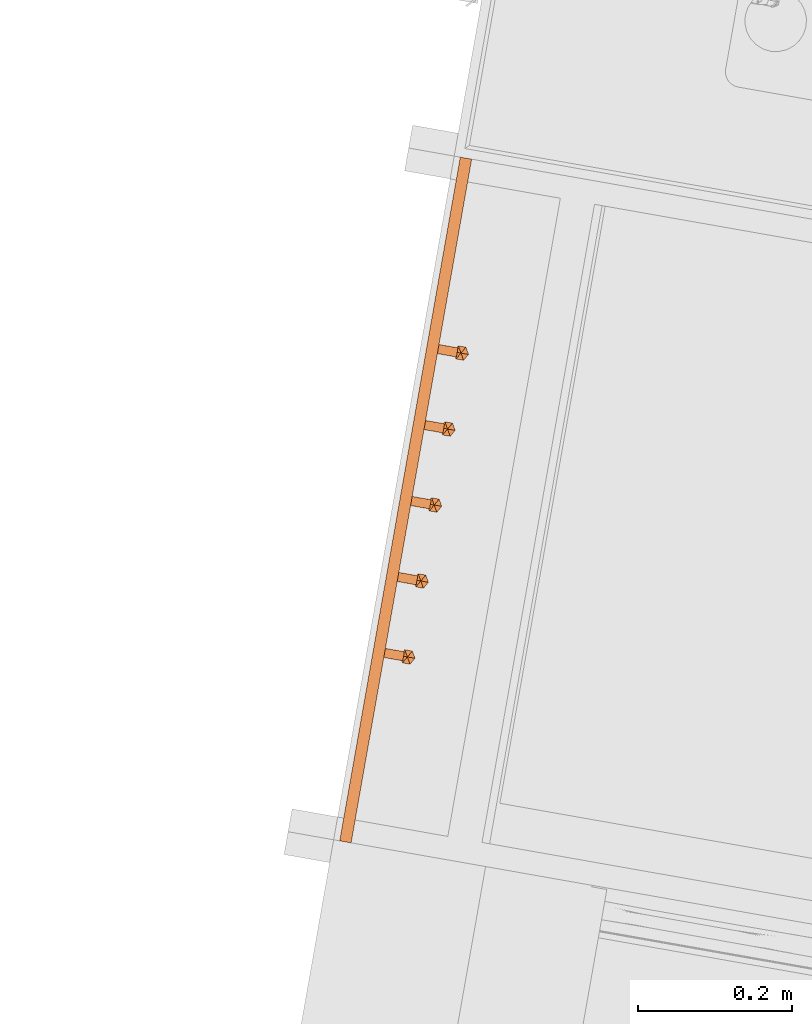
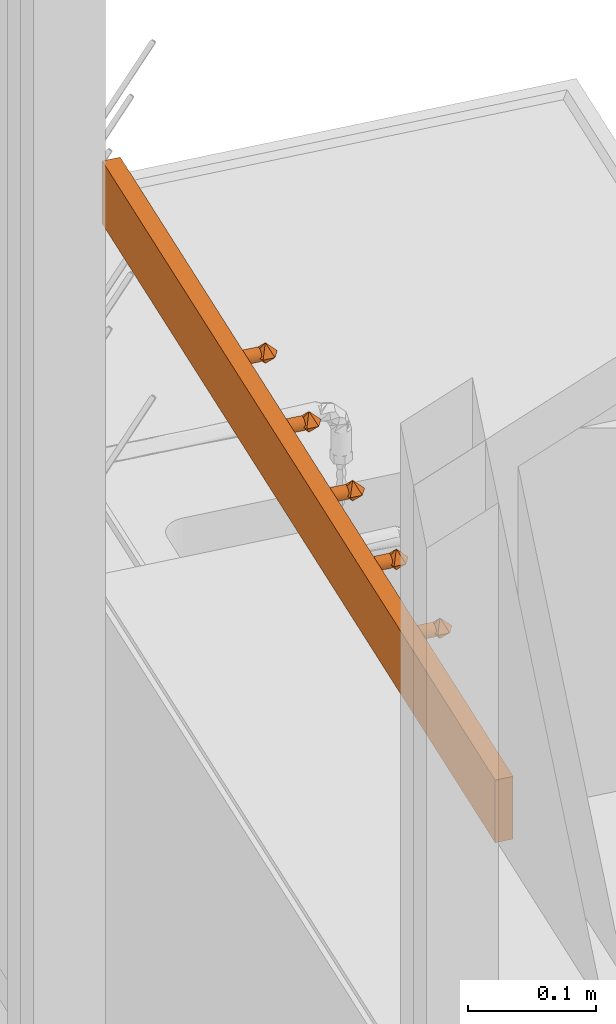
# One storey, part 43 of 43: 1 proxy.
"""IFC2X3 building model written with IfcOpenShell, lengths in metres."""

from ifc_helpers import new_model, entity, si_unit, converted_unit, derived_unit, direction, frame, origin, place, context, subcontext, project, spatial, faceted_brep, source, transform, mapped, material, type_object, type_shapes, element, save


model = new_model("IFC2X3")

# Units and contexts
model_context = context("Model", 3, precision=1e-05, world=origin(), true_north=direction((6.12303176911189e-17, 1.0)))
body_context = subcontext(model_context, "Body", "Model", "MODEL_VIEW")
ifc_project = project(units=[si_unit("LENGTHUNIT", "METRE"), si_unit("AREAUNIT", "SQUARE_METRE"), si_unit("VOLUMEUNIT", "CUBIC_METRE"), converted_unit("PLANEANGLEUNIT", "DEGREE", entity("IfcRatioMeasure", 0.0174532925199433), si_unit("PLANEANGLEUNIT", "RADIAN"), dimensions=[0, 0, 0, 0, 0, 0, 0]), si_unit("MASSUNIT", "GRAM", prefix="KILO"), derived_unit("MASSDENSITYUNIT", [(si_unit("MASSUNIT", "GRAM", prefix="KILO"), 1), (si_unit("LENGTHUNIT", "METRE"), -3)]), derived_unit("MOMENTOFINERTIAUNIT", [(si_unit("LENGTHUNIT", "METRE"), 4)]), si_unit("TIMEUNIT", "SECOND"), si_unit("FREQUENCYUNIT", "HERTZ"), si_unit("THERMODYNAMICTEMPERATUREUNIT", "DEGREE_CELSIUS"), derived_unit("THERMALTRANSMITTANCEUNIT", [(si_unit("MASSUNIT", "GRAM", prefix="KILO"), 1), (si_unit("THERMODYNAMICTEMPERATUREUNIT", "KELVIN"), -1), (si_unit("TIMEUNIT", "SECOND"), -3)]), derived_unit("VOLUMETRICFLOWRATEUNIT", [(si_unit("LENGTHUNIT", "METRE"), 3), (si_unit("TIMEUNIT", "SECOND"), -1)]), si_unit("ELECTRICCURRENTUNIT", "AMPERE"), si_unit("ELECTRICVOLTAGEUNIT", "VOLT"), si_unit("POWERUNIT", "WATT"), si_unit("FORCEUNIT", "NEWTON", prefix="KILO"), si_unit("ILLUMINANCEUNIT", "LUX"), si_unit("LUMINOUSFLUXUNIT", "LUMEN"), si_unit("LUMINOUSINTENSITYUNIT", "CANDELA"), derived_unit("USERDEFINED", [(si_unit("MASSUNIT", "GRAM", prefix="KILO"), -1), (si_unit("LENGTHUNIT", "METRE"), -2), (si_unit("TIMEUNIT", "SECOND"), 3), (si_unit("LUMINOUSFLUXUNIT", "LUMEN"), 1)]), derived_unit("LINEARVELOCITYUNIT", [(si_unit("LENGTHUNIT", "METRE"), 1), (si_unit("TIMEUNIT", "SECOND"), -1)]), si_unit("PRESSUREUNIT", "PASCAL"), derived_unit("USERDEFINED", [(si_unit("LENGTHUNIT", "METRE"), -2), (si_unit("MASSUNIT", "GRAM", prefix="KILO"), 1), (si_unit("TIMEUNIT", "SECOND"), -2)]), derived_unit("LINEARFORCEUNIT", [(si_unit("MASSUNIT", "GRAM", prefix="KILO"), 1), (si_unit("LENGTHUNIT", "METRE"), 1), (si_unit("TIMEUNIT", "SECOND"), -2), (si_unit("LENGTHUNIT", "METRE"), -1)]), derived_unit("PLANARFORCEUNIT", [(si_unit("MASSUNIT", "GRAM", prefix="KILO"), 1), (si_unit("LENGTHUNIT", "METRE"), 1), (si_unit("TIMEUNIT", "SECOND"), -2), (si_unit("LENGTHUNIT", "METRE"), -2)])], contexts=[model_context])

# Site, building, storey
site_placement = place(None, origin())
site = spatial("IfcSite", under=ifc_project, at=site_placement, Name="Default", CompositionType="ELEMENT")
building_placement = place(site_placement, origin())
building = spatial("IfcBuilding", under=site, at=building_placement, CompositionType="ELEMENT")
storey_placement = place(building_placement, frame((0.0, 0.0, 3.0)))
storey = spatial("IfcBuildingStorey", under=building, at=storey_placement, Name="01 OG", CompositionType="ELEMENT", Elevation=3.0)

# Proxy
ifc_material = material(Name="dh_Weiß")
building_element_proxy_type = type_object("IfcBuildingElementProxyType", Name="dh_Kittelleiste:K600", PredefinedType="NOTDEFINED", material=ifc_material)
shared_shape = source(origin(), body_context, "Body", "Brep", [
    faceted_brep([(0.241339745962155, 0.0065952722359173, 0.0299999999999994), (0.249999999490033, 0.0115952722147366, 0.0199999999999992), (0.25, 0.00159527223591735, 0.0299999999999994), (0.241339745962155, 0.0165952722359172, 0.0299999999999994), (0.25, 0.0215952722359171, 0.0299999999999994), (0.258660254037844, 0.0065952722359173, 0.0299999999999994), (0.258660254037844, 0.0165952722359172, 0.0299999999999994), (0.250000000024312, 0.0115952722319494, 0.0399999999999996)], [[[0, 1, 2]], [[1, 0, 3]], [[1, 3, 4]], [[5, 1, 6]], [[1, 4, 6]], [[2, 1, 5]], [[5, 7, 2]], [[7, 5, 6]], [[7, 6, 4]], [[0, 7, 3]], [[7, 4, 3]], [[2, 7, 0]]]),
    faceted_brep([(0.251552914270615, 0.016605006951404, 0.0242044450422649), (0.253, 0.016605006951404, 0.0248038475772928), (0.254242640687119, 0.016605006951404, 0.0257573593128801), (0.255196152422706, 0.016605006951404, 0.0269999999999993), (0.255795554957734, 0.016605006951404, 0.0284470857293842), (0.256, 0.016605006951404, 0.0299999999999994), (0.255795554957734, 0.016605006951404, 0.0315529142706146), (0.255196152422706, 0.016605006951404, 0.0329999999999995), (0.254242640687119, 0.016605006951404, 0.0342426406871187), (0.253, 0.016605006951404, 0.035196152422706), (0.251552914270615, 0.016605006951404, 0.0357955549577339), (0.25, 0.016605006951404, 0.0359999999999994), (0.248447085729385, 0.016605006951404, 0.0357955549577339), (0.247, 0.016605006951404, 0.035196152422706), (0.24575735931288, 0.016605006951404, 0.0342426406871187), (0.244803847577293, 0.016605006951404, 0.0329999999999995), (0.244204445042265, 0.016605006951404, 0.0315529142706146), (0.244, 0.016605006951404, 0.0299999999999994), (0.244204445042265, 0.016605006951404, 0.0284470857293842), (0.244803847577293, 0.016605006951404, 0.0269999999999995), (0.24575735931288, 0.016605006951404, 0.0257573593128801), (0.247, 0.016605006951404, 0.0248038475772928), (0.248447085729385, 0.016605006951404, 0.0242044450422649), (0.25, 0.016605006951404, 0.0239999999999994), (0.251552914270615, 0.0416050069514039, 0.0357955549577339), (0.253, 0.0416050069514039, 0.035196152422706), (0.254242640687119, 0.0416050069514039, 0.0342426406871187), (0.255196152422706, 0.0416050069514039, 0.0329999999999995), (0.255795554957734, 0.0416050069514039, 0.0315529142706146), (0.256, 0.0416050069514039, 0.0299999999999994), (0.255795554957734, 0.0416050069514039, 0.0284470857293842), (0.255196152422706, 0.0416050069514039, 0.0269999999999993), (0.254242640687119, 0.0416050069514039, 0.0257573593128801), (0.253, 0.0416050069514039, 0.0248038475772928), (0.251552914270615, 0.0416050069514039, 0.0242044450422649), (0.25, 0.0416050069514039, 0.0239999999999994), (0.248447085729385, 0.0416050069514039, 0.0242044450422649), (0.247, 0.0416050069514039, 0.0248038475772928), (0.24575735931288, 0.0416050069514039, 0.0257573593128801), (0.244803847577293, 0.0416050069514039, 0.0269999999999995), (0.244204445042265, 0.0416050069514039, 0.0284470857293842), (0.244, 0.0416050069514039, 0.0299999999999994), (0.244204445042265, 0.0416050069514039, 0.0315529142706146), (0.244803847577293, 0.0416050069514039, 0.0329999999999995), (0.24575735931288, 0.0416050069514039, 0.0342426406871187), (0.247, 0.0416050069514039, 0.035196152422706), (0.248447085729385, 0.0416050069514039, 0.0357955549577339), (0.25, 0.0416050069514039, 0.0359999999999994)], [[[0, 1, 2, 3, 4, 5, 6, 7, 8, 9, 10, 11, 12, 13, 14, 15, 16, 17, 18, 19, 20, 21, 22, 23]], [[24, 25, 26, 27, 28, 29, 30, 31, 32, 33, 34, 35, 36, 37, 38, 39, 40, 41, 42, 43, 44, 45, 46, 47]], [[40, 18, 17, 41]], [[39, 19, 18, 40]], [[21, 20, 38, 37]], [[39, 38, 20, 19]], [[22, 21, 37, 36]], [[23, 22, 36, 35]], [[34, 0, 23, 35]], [[33, 1, 0, 34]], [[3, 2, 32, 31]], [[33, 32, 2, 1]], [[4, 3, 31, 30]], [[5, 4, 30, 29]], [[28, 6, 5, 29]], [[27, 7, 6, 28]], [[9, 8, 26, 25]], [[27, 26, 8, 7]], [[10, 9, 25, 24]], [[11, 10, 24, 47]], [[46, 12, 11, 47]], [[45, 13, 12, 46]], [[15, 14, 44, 43]], [[45, 44, 14, 13]], [[16, 15, 43, 42]], [[17, 16, 42, 41]]]),
    faceted_brep([(0.441339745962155, 0.00659527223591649, 0.0299999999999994), (0.449999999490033, 0.0115952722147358, 0.0199999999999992), (0.45, 0.00159527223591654, 0.0299999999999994), (0.441339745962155, 0.0165952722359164, 0.0299999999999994), (0.45, 0.0215952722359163, 0.0299999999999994), (0.458660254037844, 0.00659527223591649, 0.0299999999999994), (0.458660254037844, 0.0165952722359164, 0.0299999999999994), (0.450000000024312, 0.0115952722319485, 0.0399999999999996)], [[[0, 1, 2]], [[1, 0, 3]], [[1, 3, 4]], [[5, 1, 6]], [[1, 4, 6]], [[2, 1, 5]], [[5, 7, 2]], [[7, 5, 6]], [[7, 6, 4]], [[0, 7, 3]], [[7, 4, 3]], [[2, 7, 0]]]),
    faceted_brep([(0.451552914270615, 0.0166050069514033, 0.0242044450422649), (0.453, 0.0166050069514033, 0.0248038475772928), (0.454242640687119, 0.0166050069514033, 0.0257573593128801), (0.455196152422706, 0.0166050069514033, 0.0269999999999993), (0.455795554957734, 0.0166050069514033, 0.0284470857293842), (0.456, 0.0166050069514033, 0.0299999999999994), (0.455795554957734, 0.0166050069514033, 0.0315529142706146), (0.455196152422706, 0.0166050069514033, 0.0329999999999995), (0.454242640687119, 0.0166050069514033, 0.0342426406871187), (0.453, 0.0166050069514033, 0.035196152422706), (0.451552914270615, 0.0166050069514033, 0.0357955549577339), (0.45, 0.0166050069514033, 0.0359999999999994), (0.448447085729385, 0.0166050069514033, 0.0357955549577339), (0.447, 0.0166050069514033, 0.035196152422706), (0.445757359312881, 0.0166050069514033, 0.0342426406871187), (0.444803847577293, 0.0166050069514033, 0.0329999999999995), (0.444204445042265, 0.0166050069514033, 0.0315529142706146), (0.444, 0.0166050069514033, 0.0299999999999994), (0.444204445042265, 0.0166050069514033, 0.0284470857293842), (0.444803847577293, 0.0166050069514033, 0.0269999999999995), (0.44575735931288, 0.0166050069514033, 0.0257573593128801), (0.447, 0.0166050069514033, 0.0248038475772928), (0.448447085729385, 0.0166050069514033, 0.0242044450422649), (0.45, 0.0166050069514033, 0.0239999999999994), (0.451552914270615, 0.0416050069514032, 0.0357955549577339), (0.453, 0.0416050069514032, 0.035196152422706), (0.454242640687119, 0.0416050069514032, 0.0342426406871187), (0.455196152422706, 0.0416050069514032, 0.0329999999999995), (0.455795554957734, 0.0416050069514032, 0.0315529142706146), (0.456, 0.0416050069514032, 0.0299999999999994), (0.455795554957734, 0.0416050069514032, 0.0284470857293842), (0.455196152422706, 0.0416050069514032, 0.0269999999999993), (0.454242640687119, 0.0416050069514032, 0.0257573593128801), (0.453, 0.0416050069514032, 0.0248038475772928), (0.451552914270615, 0.0416050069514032, 0.0242044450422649), (0.45, 0.0416050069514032, 0.0239999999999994), (0.448447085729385, 0.0416050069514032, 0.0242044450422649), (0.447, 0.0416050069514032, 0.0248038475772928), (0.44575735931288, 0.0416050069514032, 0.0257573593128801), (0.444803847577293, 0.0416050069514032, 0.0269999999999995), (0.444204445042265, 0.0416050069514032, 0.0284470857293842), (0.444, 0.0416050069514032, 0.0299999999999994), (0.444204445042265, 0.0416050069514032, 0.0315529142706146), (0.444803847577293, 0.0416050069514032, 0.0329999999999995), (0.445757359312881, 0.0416050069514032, 0.0342426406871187), (0.447, 0.0416050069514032, 0.035196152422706), (0.448447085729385, 0.0416050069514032, 0.0357955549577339), (0.45, 0.0416050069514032, 0.0359999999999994)], [[[0, 1, 2, 3, 4, 5, 6, 7, 8, 9, 10, 11, 12, 13, 14, 15, 16, 17, 18, 19, 20, 21, 22, 23]], [[24, 25, 26, 27, 28, 29, 30, 31, 32, 33, 34, 35, 36, 37, 38, 39, 40, 41, 42, 43, 44, 45, 46, 47]], [[40, 18, 17, 41]], [[39, 19, 18, 40]], [[21, 20, 38, 37]], [[39, 38, 20, 19]], [[22, 21, 37, 36]], [[23, 22, 36, 35]], [[34, 0, 23, 35]], [[33, 1, 0, 34]], [[3, 2, 32, 31]], [[33, 32, 2, 1]], [[4, 3, 31, 30]], [[5, 4, 30, 29]], [[28, 6, 5, 29]], [[27, 7, 6, 28]], [[9, 8, 26, 25]], [[27, 26, 8, 7]], [[10, 9, 25, 24]], [[11, 10, 24, 47]], [[46, 12, 11, 47]], [[45, 13, 12, 46]], [[15, 14, 44, 43]], [[45, 44, 14, 13]], [[16, 15, 43, 42]], [[17, 16, 42, 41]]]),
    faceted_brep([(0.341339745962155, 0.00659527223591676, 0.0299999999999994), (0.349999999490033, 0.0115952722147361, 0.0199999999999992), (0.35, 0.00159527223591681, 0.0299999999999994), (0.341339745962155, 0.0165952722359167, 0.0299999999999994), (0.35, 0.0215952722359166, 0.0299999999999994), (0.358660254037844, 0.00659527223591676, 0.0299999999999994), (0.358660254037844, 0.0165952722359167, 0.0299999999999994), (0.350000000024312, 0.0115952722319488, 0.0399999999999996)], [[[0, 1, 2]], [[1, 0, 3]], [[1, 3, 4]], [[5, 1, 6]], [[1, 4, 6]], [[2, 1, 5]], [[5, 7, 2]], [[7, 5, 6]], [[7, 6, 4]], [[0, 7, 3]], [[7, 4, 3]], [[2, 7, 0]]]),
    faceted_brep([(0.351552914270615, 0.0166050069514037, 0.0242044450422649), (0.353, 0.0166050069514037, 0.0248038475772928), (0.354242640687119, 0.0166050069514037, 0.0257573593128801), (0.355196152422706, 0.0166050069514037, 0.0269999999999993), (0.355795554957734, 0.0166050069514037, 0.0284470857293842), (0.356, 0.0166050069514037, 0.0299999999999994), (0.355795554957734, 0.0166050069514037, 0.0315529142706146), (0.355196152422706, 0.0166050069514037, 0.0329999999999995), (0.354242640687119, 0.0166050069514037, 0.0342426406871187), (0.353, 0.0166050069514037, 0.035196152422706), (0.351552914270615, 0.0166050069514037, 0.0357955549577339), (0.35, 0.0166050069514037, 0.0359999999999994), (0.348447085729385, 0.0166050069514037, 0.0357955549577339), (0.347, 0.0166050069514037, 0.035196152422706), (0.345757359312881, 0.0166050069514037, 0.0342426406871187), (0.344803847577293, 0.0166050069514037, 0.0329999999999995), (0.344204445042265, 0.0166050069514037, 0.0315529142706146), (0.344, 0.0166050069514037, 0.0299999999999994), (0.344204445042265, 0.0166050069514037, 0.0284470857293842), (0.344803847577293, 0.0166050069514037, 0.0269999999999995), (0.34575735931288, 0.0166050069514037, 0.0257573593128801), (0.347, 0.0166050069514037, 0.0248038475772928), (0.348447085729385, 0.0166050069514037, 0.0242044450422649), (0.35, 0.0166050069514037, 0.0239999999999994), (0.351552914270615, 0.0416050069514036, 0.0357955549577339), (0.353, 0.0416050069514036, 0.035196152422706), (0.354242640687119, 0.0416050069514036, 0.0342426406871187), (0.355196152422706, 0.0416050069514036, 0.0329999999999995), (0.355795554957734, 0.0416050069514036, 0.0315529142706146), (0.356, 0.0416050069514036, 0.0299999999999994), (0.355795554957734, 0.0416050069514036, 0.0284470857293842), (0.355196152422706, 0.0416050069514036, 0.0269999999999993), (0.354242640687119, 0.0416050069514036, 0.0257573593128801), (0.353, 0.0416050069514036, 0.0248038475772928), (0.351552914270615, 0.0416050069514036, 0.0242044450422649), (0.35, 0.0416050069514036, 0.0239999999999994), (0.348447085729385, 0.0416050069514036, 0.0242044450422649), (0.347, 0.0416050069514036, 0.0248038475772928), (0.34575735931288, 0.0416050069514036, 0.0257573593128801), (0.344803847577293, 0.0416050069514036, 0.0269999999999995), (0.344204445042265, 0.0416050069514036, 0.0284470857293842), (0.344, 0.0416050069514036, 0.0299999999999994), (0.344204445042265, 0.0416050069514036, 0.0315529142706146), (0.344803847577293, 0.0416050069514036, 0.0329999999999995), (0.345757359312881, 0.0416050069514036, 0.0342426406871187), (0.347, 0.0416050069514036, 0.035196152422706), (0.348447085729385, 0.0416050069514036, 0.0357955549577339), (0.35, 0.0416050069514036, 0.0359999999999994)], [[[0, 1, 2, 3, 4, 5, 6, 7, 8, 9, 10, 11, 12, 13, 14, 15, 16, 17, 18, 19, 20, 21, 22, 23]], [[24, 25, 26, 27, 28, 29, 30, 31, 32, 33, 34, 35, 36, 37, 38, 39, 40, 41, 42, 43, 44, 45, 46, 47]], [[40, 18, 17, 41]], [[39, 19, 18, 40]], [[21, 20, 38, 37]], [[39, 38, 20, 19]], [[22, 21, 37, 36]], [[23, 22, 36, 35]], [[34, 0, 23, 35]], [[33, 1, 0, 34]], [[3, 2, 32, 31]], [[33, 32, 2, 1]], [[4, 3, 31, 30]], [[5, 4, 30, 29]], [[28, 6, 5, 29]], [[27, 7, 6, 28]], [[9, 8, 26, 25]], [[27, 26, 8, 7]], [[10, 9, 25, 24]], [[11, 10, 24, 47]], [[46, 12, 11, 47]], [[45, 13, 12, 46]], [[15, 14, 44, 43]], [[45, 44, 14, 13]], [[16, 15, 43, 42]], [[17, 16, 42, 41]]]),
    faceted_brep([(0.541339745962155, 0.00659527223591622, 0.0299999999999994), (0.549999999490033, 0.0115952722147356, 0.0199999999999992), (0.55, 0.00159527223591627, 0.0299999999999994), (0.541339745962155, 0.0165952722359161, 0.0299999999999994), (0.55, 0.0215952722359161, 0.0299999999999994), (0.558660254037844, 0.00659527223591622, 0.0299999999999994), (0.558660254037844, 0.0165952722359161, 0.0299999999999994), (0.550000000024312, 0.0115952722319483, 0.0399999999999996)], [[[0, 1, 2]], [[1, 0, 3]], [[1, 3, 4]], [[5, 1, 6]], [[1, 4, 6]], [[2, 1, 5]], [[5, 7, 2]], [[7, 5, 6]], [[7, 6, 4]], [[0, 7, 3]], [[7, 4, 3]], [[2, 7, 0]]]),
    faceted_brep([(0.551552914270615, 0.0166050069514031, 0.0242044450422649), (0.553, 0.0166050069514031, 0.0248038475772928), (0.554242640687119, 0.0166050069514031, 0.0257573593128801), (0.555196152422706, 0.0166050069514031, 0.0269999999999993), (0.555795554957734, 0.0166050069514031, 0.0284470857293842), (0.556, 0.0166050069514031, 0.0299999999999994), (0.555795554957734, 0.0166050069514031, 0.0315529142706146), (0.555196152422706, 0.0166050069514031, 0.0329999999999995), (0.554242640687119, 0.0166050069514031, 0.0342426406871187), (0.553, 0.0166050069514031, 0.035196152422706), (0.551552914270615, 0.0166050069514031, 0.0357955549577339), (0.55, 0.0166050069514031, 0.0359999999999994), (0.548447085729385, 0.0166050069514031, 0.0357955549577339), (0.547, 0.0166050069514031, 0.035196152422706), (0.545757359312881, 0.0166050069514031, 0.0342426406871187), (0.544803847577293, 0.0166050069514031, 0.0329999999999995), (0.544204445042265, 0.0166050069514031, 0.0315529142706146), (0.544, 0.0166050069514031, 0.0299999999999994), (0.544204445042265, 0.0166050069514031, 0.0284470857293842), (0.544803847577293, 0.0166050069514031, 0.0269999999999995), (0.545757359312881, 0.0166050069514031, 0.0257573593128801), (0.547, 0.0166050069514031, 0.0248038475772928), (0.548447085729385, 0.0166050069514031, 0.0242044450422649), (0.55, 0.0166050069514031, 0.0239999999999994), (0.551552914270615, 0.0416050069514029, 0.0357955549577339), (0.553, 0.0416050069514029, 0.035196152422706), (0.554242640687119, 0.0416050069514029, 0.0342426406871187), (0.555196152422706, 0.0416050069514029, 0.0329999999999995), (0.555795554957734, 0.0416050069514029, 0.0315529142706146), (0.556, 0.0416050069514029, 0.0299999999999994), (0.555795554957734, 0.0416050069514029, 0.0284470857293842), (0.555196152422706, 0.0416050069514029, 0.0269999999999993), (0.554242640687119, 0.0416050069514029, 0.0257573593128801), (0.553, 0.0416050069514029, 0.0248038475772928), (0.551552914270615, 0.0416050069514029, 0.0242044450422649), (0.55, 0.0416050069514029, 0.0239999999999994), (0.548447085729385, 0.0416050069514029, 0.0242044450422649), (0.547, 0.0416050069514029, 0.0248038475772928), (0.545757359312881, 0.0416050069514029, 0.0257573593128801), (0.544803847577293, 0.0416050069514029, 0.0269999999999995), (0.544204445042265, 0.0416050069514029, 0.0284470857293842), (0.544, 0.0416050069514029, 0.0299999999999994), (0.544204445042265, 0.0416050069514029, 0.0315529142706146), (0.544803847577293, 0.0416050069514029, 0.0329999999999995), (0.545757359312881, 0.0416050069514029, 0.0342426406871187), (0.547, 0.0416050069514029, 0.035196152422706), (0.548447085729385, 0.0416050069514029, 0.0357955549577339), (0.55, 0.0416050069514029, 0.0359999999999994)], [[[0, 1, 2, 3, 4, 5, 6, 7, 8, 9, 10, 11, 12, 13, 14, 15, 16, 17, 18, 19, 20, 21, 22, 23]], [[24, 25, 26, 27, 28, 29, 30, 31, 32, 33, 34, 35, 36, 37, 38, 39, 40, 41, 42, 43, 44, 45, 46, 47]], [[40, 18, 17, 41]], [[39, 19, 18, 40]], [[21, 20, 38, 37]], [[39, 38, 20, 19]], [[22, 21, 37, 36]], [[23, 22, 36, 35]], [[34, 0, 23, 35]], [[33, 1, 0, 34]], [[3, 2, 32, 31]], [[33, 32, 2, 1]], [[4, 3, 31, 30]], [[5, 4, 30, 29]], [[28, 6, 5, 29]], [[27, 7, 6, 28]], [[9, 8, 26, 25]], [[27, 26, 8, 7]], [[10, 9, 25, 24]], [[11, 10, 24, 47]], [[46, 12, 11, 47]], [[45, 13, 12, 46]], [[15, 14, 44, 43]], [[45, 44, 14, 13]], [[16, 15, 43, 42]], [[17, 16, 42, 41]]]),
    faceted_brep([(0.641339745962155, 0.00659527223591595, 0.0299999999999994), (0.649999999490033, 0.0115952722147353, 0.0199999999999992), (0.65, 0.001595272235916, 0.0299999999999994), (0.641339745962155, 0.0165952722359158, 0.0299999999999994), (0.65, 0.0215952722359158, 0.0299999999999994), (0.658660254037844, 0.00659527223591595, 0.0299999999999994), (0.658660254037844, 0.0165952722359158, 0.0299999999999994), (0.650000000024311, 0.011595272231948, 0.0399999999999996)], [[[0, 1, 2]], [[1, 0, 3]], [[1, 3, 4]], [[5, 1, 6]], [[1, 4, 6]], [[2, 1, 5]], [[5, 7, 2]], [[7, 5, 6]], [[7, 6, 4]], [[0, 7, 3]], [[7, 4, 3]], [[2, 7, 0]]]),
    faceted_brep([(0.651552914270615, 0.0166050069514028, 0.0242044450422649), (0.653, 0.0166050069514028, 0.0248038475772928), (0.654242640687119, 0.0166050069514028, 0.0257573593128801), (0.655196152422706, 0.0166050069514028, 0.0269999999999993), (0.655795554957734, 0.0166050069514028, 0.0284470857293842), (0.656, 0.0166050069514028, 0.0299999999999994), (0.655795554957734, 0.0166050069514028, 0.0315529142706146), (0.655196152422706, 0.0166050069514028, 0.0329999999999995), (0.654242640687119, 0.0166050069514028, 0.0342426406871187), (0.653, 0.0166050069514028, 0.035196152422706), (0.651552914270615, 0.0166050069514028, 0.0357955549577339), (0.65, 0.0166050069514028, 0.0359999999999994), (0.648447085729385, 0.0166050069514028, 0.0357955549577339), (0.647, 0.0166050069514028, 0.035196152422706), (0.64575735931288, 0.0166050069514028, 0.0342426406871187), (0.644803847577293, 0.0166050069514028, 0.0329999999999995), (0.644204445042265, 0.0166050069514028, 0.0315529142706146), (0.644, 0.0166050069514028, 0.0299999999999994), (0.644204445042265, 0.0166050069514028, 0.0284470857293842), (0.644803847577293, 0.0166050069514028, 0.0269999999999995), (0.64575735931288, 0.0166050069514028, 0.0257573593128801), (0.647, 0.0166050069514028, 0.0248038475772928), (0.648447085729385, 0.0166050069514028, 0.0242044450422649), (0.65, 0.0166050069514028, 0.0239999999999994), (0.651552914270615, 0.0416050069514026, 0.0357955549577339), (0.653, 0.0416050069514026, 0.035196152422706), (0.654242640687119, 0.0416050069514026, 0.0342426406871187), (0.655196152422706, 0.0416050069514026, 0.0329999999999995), (0.655795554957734, 0.0416050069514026, 0.0315529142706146), (0.656, 0.0416050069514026, 0.0299999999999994), (0.655795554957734, 0.0416050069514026, 0.0284470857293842), (0.655196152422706, 0.0416050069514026, 0.0269999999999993), (0.654242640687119, 0.0416050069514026, 0.0257573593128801), (0.653, 0.0416050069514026, 0.0248038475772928), (0.651552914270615, 0.0416050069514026, 0.0242044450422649), (0.65, 0.0416050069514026, 0.0239999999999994), (0.648447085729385, 0.0416050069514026, 0.0242044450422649), (0.647, 0.0416050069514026, 0.0248038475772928), (0.64575735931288, 0.0416050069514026, 0.0257573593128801), (0.644803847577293, 0.0416050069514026, 0.0269999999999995), (0.644204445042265, 0.0416050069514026, 0.0284470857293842), (0.644, 0.0416050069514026, 0.0299999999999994), (0.644204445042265, 0.0416050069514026, 0.0315529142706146), (0.644803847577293, 0.0416050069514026, 0.0329999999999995), (0.64575735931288, 0.0416050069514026, 0.0342426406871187), (0.647, 0.0416050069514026, 0.035196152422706), (0.648447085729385, 0.0416050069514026, 0.0357955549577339), (0.65, 0.0416050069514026, 0.0359999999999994)], [[[0, 1, 2, 3, 4, 5, 6, 7, 8, 9, 10, 11, 12, 13, 14, 15, 16, 17, 18, 19, 20, 21, 22, 23]], [[24, 25, 26, 27, 28, 29, 30, 31, 32, 33, 34, 35, 36, 37, 38, 39, 40, 41, 42, 43, 44, 45, 46, 47]], [[40, 18, 17, 41]], [[39, 19, 18, 40]], [[21, 20, 38, 37]], [[39, 38, 20, 19]], [[22, 21, 37, 36]], [[23, 22, 36, 35]], [[34, 0, 23, 35]], [[33, 1, 0, 34]], [[3, 2, 32, 31]], [[33, 32, 2, 1]], [[4, 3, 31, 30]], [[5, 4, 30, 29]], [[28, 6, 5, 29]], [[27, 7, 6, 28]], [[9, 8, 26, 25]], [[27, 26, 8, 7]], [[10, 9, 25, 24]], [[11, 10, 24, 47]], [[46, 12, 11, 47]], [[45, 13, 12, 46]], [[15, 14, 44, 43]], [[45, 44, 14, 13]], [[16, 15, 43, 42]], [[17, 16, 42, 41]]]),
    faceted_brep([(0.9, 0.0566050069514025, 0.0600000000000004), (0.0, 0.0566050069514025, 0.0600000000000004), (0.0, 0.0416050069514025, 0.0600000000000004), (0.9, 0.0416050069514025, 0.0600000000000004), (0.9, 0.0566050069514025, 0.0), (0.9, 0.0416050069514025, 0.0), (0.0, 0.0416050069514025, 0.0), (0.0, 0.0566050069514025, 0.0)], [[[0, 1, 2, 3]], [[4, 5, 6, 7]], [[1, 0, 4, 7]], [[2, 1, 7, 6]], [[3, 2, 6, 5]], [[0, 3, 5, 4]]]),
])
type_shapes(building_element_proxy_type, [shared_shape])
proxy_placement = place(storey_placement, frame((22.8331925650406, 10.6598652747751, 1.75), z_axis=(0.0, 0.0, 1.0), x_axis=(0.173648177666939, 0.984807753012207, 0.0)))
element("IfcBuildingElementProxy", 1, at=proxy_placement, inside=storey, type_object=building_element_proxy_type, material=ifc_material, Name="dh_Kittelleiste:K600", ObjectType="dh_Kittelleiste:K600", context=body_context, shape_type="MappedRepresentation", body=[
    mapped(shared_shape, transform((0.0, 0.0, 0.0), scale=1.0)),
])

save(model, "model.ifc")
